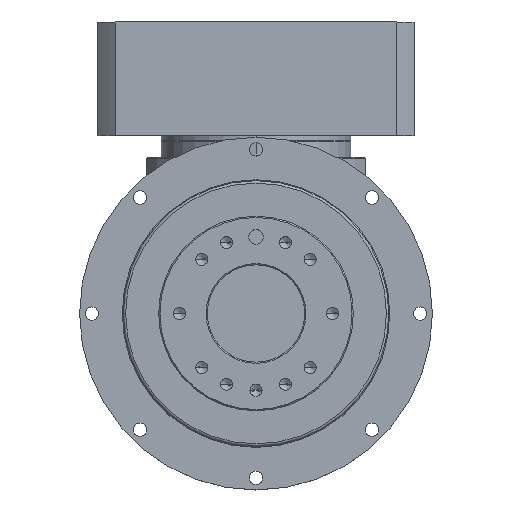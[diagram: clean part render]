
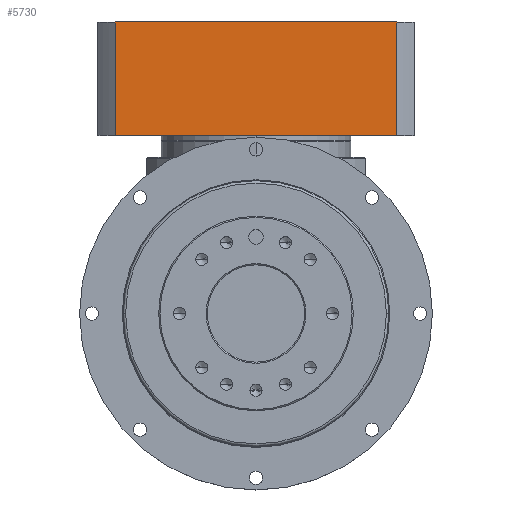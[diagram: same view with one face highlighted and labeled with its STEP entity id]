
A CAD part, top view. The second image highlights one B-rep face of the part: STEP entity #5730.
In plain terms, the highlighted planar face has unit normal (0, 0, 1).
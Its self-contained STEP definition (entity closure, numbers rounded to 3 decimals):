
#19 = LINE ( 'NONE', #3156, #1875 ) ;
#178 = DIRECTION ( 'NONE',  ( 0., -1., 0. ) ) ;
#194 = PLANE ( 'NONE',  #9424 ) ;
#311 = CARTESIAN_POINT ( 'NONE',  ( -57.827, 73.5, -66.5 ) ) ;
#446 = DIRECTION ( 'NONE',  ( 0., -1., 0. ) ) ;
#821 = FACE_OUTER_BOUND ( 'NONE', #2330, .T. ) ;
#926 = CARTESIAN_POINT ( 'NONE',  ( 57.827, 120., -66.5 ) ) ;
#988 = EDGE_CURVE ( 'NONE', #4823, #1235, #9277, .T. ) ;
#1137 = VECTOR ( 'NONE', #2635, 1000. ) ;
#1235 = VERTEX_POINT ( 'NONE', #926 ) ;
#1305 = CARTESIAN_POINT ( 'NONE',  ( 57.827, 120., -66.5 ) ) ;
#1393 = EDGE_CURVE ( 'NONE', #1235, #7341, #8526, .T. ) ;
#1460 = VECTOR ( 'NONE', #446, 1000. ) ;
#1875 = VECTOR ( 'NONE', #5162, 1000. ) ;
#2233 = CARTESIAN_POINT ( 'NONE',  ( 0., 120., -66.5 ) ) ;
#2330 = EDGE_LOOP ( 'NONE', ( #8595, #3979, #7802, #7944 ) ) ;
#2635 = DIRECTION ( 'NONE',  ( 1., 0., 0. ) ) ;
#3150 = DIRECTION ( 'NONE',  ( -1., 0., 0. ) ) ;
#3156 = CARTESIAN_POINT ( 'NONE',  ( 0., 73.5, -66.5 ) ) ;
#3441 = CARTESIAN_POINT ( 'NONE',  ( 57.827, 73.5, -66.5 ) ) ;
#3979 = ORIENTED_EDGE ( 'NONE', *, *, #1393, .F. ) ;
#3990 = VECTOR ( 'NONE', #178, 1000. ) ;
#4129 = CARTESIAN_POINT ( 'NONE',  ( 0., 120., -66.5 ) ) ;
#4823 = VERTEX_POINT ( 'NONE', #6768 ) ;
#5162 = DIRECTION ( 'NONE',  ( 1., 0., 0. ) ) ;
#5297 = DIRECTION ( 'NONE',  ( 0., 0., -1. ) ) ;
#5730 = ADVANCED_FACE ( 'NONE', ( #821 ), #194, .F. ) ;
#5911 = VERTEX_POINT ( 'NONE', #311 ) ;
#6768 = CARTESIAN_POINT ( 'NONE',  ( -57.827, 120., -66.5 ) ) ;
#6821 = CARTESIAN_POINT ( 'NONE',  ( -57.827, 120., -66.5 ) ) ;
#7341 = VERTEX_POINT ( 'NONE', #3441 ) ;
#7490 = LINE ( 'NONE', #6821, #3990 ) ;
#7802 = ORIENTED_EDGE ( 'NONE', *, *, #988, .F. ) ;
#7944 = ORIENTED_EDGE ( 'NONE', *, *, #7948, .T. ) ;
#7948 = EDGE_CURVE ( 'NONE', #4823, #5911, #7490, .T. ) ;
#8526 = LINE ( 'NONE', #1305, #1460 ) ;
#8595 = ORIENTED_EDGE ( 'NONE', *, *, #8706, .T. ) ;
#8706 = EDGE_CURVE ( 'NONE', #5911, #7341, #19, .T. ) ;
#9277 = LINE ( 'NONE', #4129, #1137 ) ;
#9424 = AXIS2_PLACEMENT_3D ( 'NONE', #2233, #5297, #3150 ) ;
